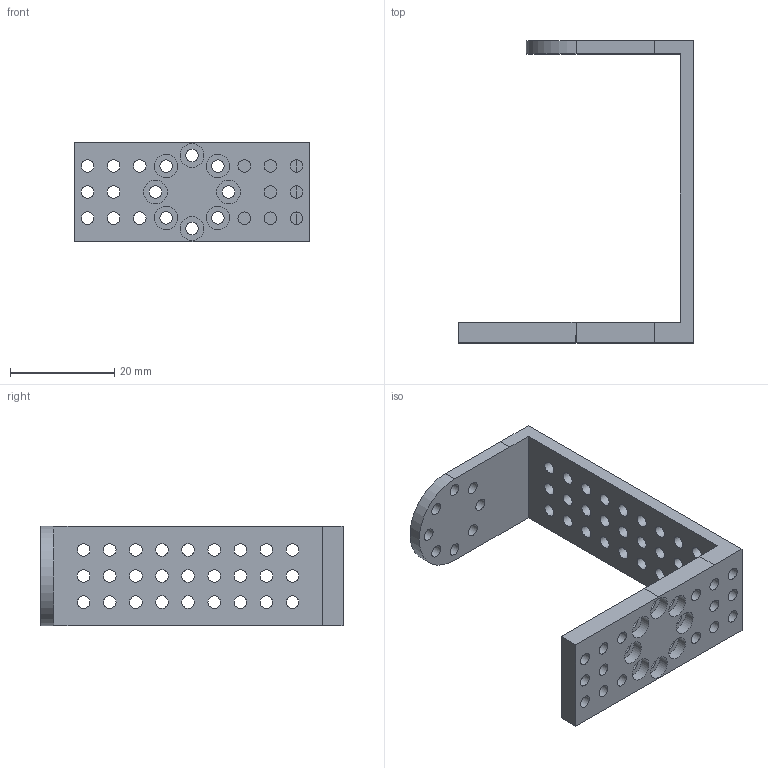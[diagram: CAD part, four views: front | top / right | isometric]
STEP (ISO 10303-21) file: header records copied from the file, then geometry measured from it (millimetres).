
FILE_DESCRIPTION(/* description */ (''),/* implementation_level */ '2;1');
FILE_NAME(/* name */ 'C:/Users/priba/Downloads/arm-link-rot2.step',/* time_stamp */ '2022-04-03T23:58:20+02:00',/* author */ (''),/* organization */ (''),/* preprocessor_version */ 'ST-DEVELOPER v18.1',/* originating_system */ 'Autodesk Translation Framework v10.13.0.1454',/* authorisation */ '');
FILE_SCHEMA (('AUTOMOTIVE_DESIGN { 1 0 10303 214 3 1 1 }'));
Length unit declared in the file: millimetre
Products named in the file (1): arm-link-rot2
Bounding box: 45 x 57.85 x 19.1 mm (x, y, z)
Volume: 6308.4 mm3; surface area: 6703.5 mm2
Topology: 1 solids, 1 shells, 95 faces, 258 edges, 170 vertices
Faces by surface type: cylinder 69, plane 26
Full cylindrical faces by diameter (mm): 2.4 x59, 4.5 x8
Entity records: 3336 total; most frequent: DIRECTION 593, CARTESIAN_POINT 524, ORIENTED_EDGE 516, EDGE_CURVE 258, AXIS2_PLACEMENT_3D 239, EDGE_LOOP 218, VERTEX_POINT 170, CIRCLE 143
